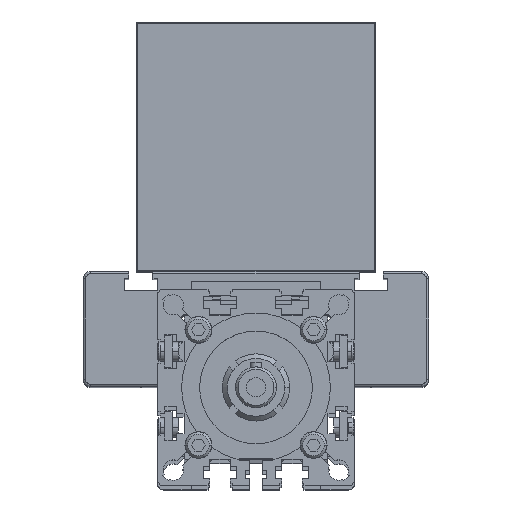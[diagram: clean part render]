
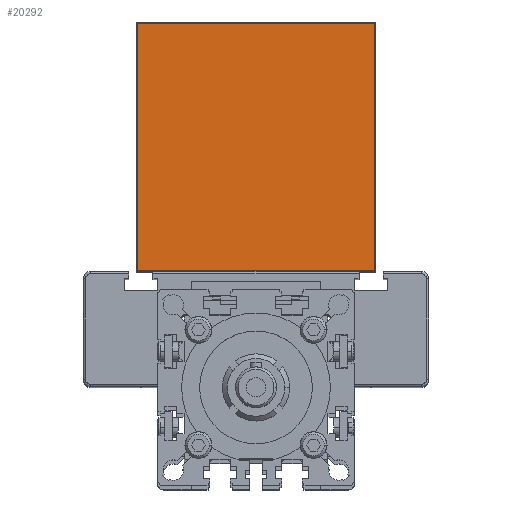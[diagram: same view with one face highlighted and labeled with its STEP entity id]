
A CAD part, top view. The second image highlights one B-rep face of the part: STEP entity #20292.
In plain terms, the highlighted planar face has unit normal (0, 0, 1).
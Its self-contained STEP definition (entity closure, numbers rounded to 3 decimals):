
#1748 = VERTEX_POINT ( 'NONE', #14089 ) ;
#2248 = AXIS2_PLACEMENT_3D ( 'NONE', #17074, #28044, #8621 ) ;
#5772 = LINE ( 'NONE', #11278, #18369 ) ;
#5962 = DIRECTION ( 'NONE',  ( -1., 0., 0. ) ) ;
#6072 = PLANE ( 'NONE',  #2248 ) ;
#6320 = ORIENTED_EDGE ( 'NONE', *, *, #24853, .T. ) ;
#7315 = CARTESIAN_POINT ( 'NONE',  ( 49.5, 104., 90. ) ) ;
#8621 = DIRECTION ( 'NONE',  ( 0., 1., 0. ) ) ;
#9923 = VECTOR ( 'NONE', #31876, 1000. ) ;
#11120 = EDGE_CURVE ( 'NONE', #33190, #21876, #34965, .T. ) ;
#11278 = CARTESIAN_POINT ( 'NONE',  ( 50., 103.5, 90. ) ) ;
#11564 = FACE_OUTER_BOUND ( 'NONE', #34923, .T. ) ;
#11857 = ORIENTED_EDGE ( 'NONE', *, *, #26982, .T. ) ;
#12901 = VERTEX_POINT ( 'NONE', #34849 ) ;
#14089 = CARTESIAN_POINT ( 'NONE',  ( 49.5, 0.5, 90. ) ) ;
#14311 = ORIENTED_EDGE ( 'NONE', *, *, #11120, .T. ) ;
#14335 = VECTOR ( 'NONE', #23800, 1000. ) ;
#15561 = EDGE_CURVE ( 'NONE', #1748, #12901, #17971, .T. ) ;
#15913 = CARTESIAN_POINT ( 'NONE',  ( -49.5, 0., 90. ) ) ;
#16118 = CARTESIAN_POINT ( 'NONE',  ( -49.5, 0.5, 90. ) ) ;
#16306 = DIRECTION ( 'NONE',  ( 1., 0., 0. ) ) ;
#17074 = CARTESIAN_POINT ( 'NONE',  ( 50., 0., 90. ) ) ;
#17971 = LINE ( 'NONE', #7315, #9923 ) ;
#18369 = VECTOR ( 'NONE', #5962, 1000. ) ;
#18522 = ORIENTED_EDGE ( 'NONE', *, *, #15561, .T. ) ;
#19056 = LINE ( 'NONE', #30214, #31166 ) ;
#19058 = CARTESIAN_POINT ( 'NONE',  ( -49.5, 103.5, 90. ) ) ;
#20292 = ADVANCED_FACE ( 'NONE', ( #11564 ), #6072, .F. ) ;
#21876 = VERTEX_POINT ( 'NONE', #16118 ) ;
#23800 = DIRECTION ( 'NONE',  ( 0., -1., 0. ) ) ;
#24853 = EDGE_CURVE ( 'NONE', #21876, #1748, #19056, .T. ) ;
#26982 = EDGE_CURVE ( 'NONE', #12901, #33190, #5772, .T. ) ;
#28044 = DIRECTION ( 'NONE',  ( 0., 0., -1. ) ) ;
#30214 = CARTESIAN_POINT ( 'NONE',  ( 50., 0.5, 90. ) ) ;
#31166 = VECTOR ( 'NONE', #16306, 1000. ) ;
#31876 = DIRECTION ( 'NONE',  ( 0., 1., 0. ) ) ;
#33190 = VERTEX_POINT ( 'NONE', #19058 ) ;
#34849 = CARTESIAN_POINT ( 'NONE',  ( 49.5, 103.5, 90. ) ) ;
#34923 = EDGE_LOOP ( 'NONE', ( #18522, #11857, #14311, #6320 ) ) ;
#34965 = LINE ( 'NONE', #15913, #14335 ) ;
